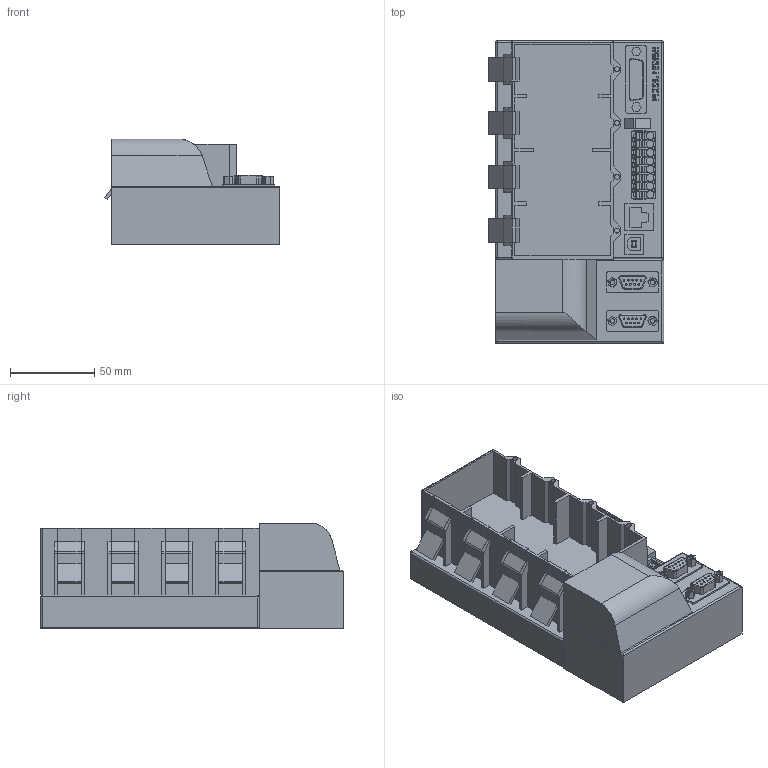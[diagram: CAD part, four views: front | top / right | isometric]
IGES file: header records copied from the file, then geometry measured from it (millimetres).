
Global section: file name: SBC_IGES_PLC_PCD3M5360_2021-04-11.iges; native system: CAD Exchanger; preprocessor: CAD Exchanger 3.9.1 (cadexchanger.com); date: 20210411.152255; units: millimetre
Bounding box: 104.25 x 180 x 63 mm (x, y, z)
Volume: 628294.3 mm3; surface area: 117574.9 mm2
Topology: 37 solids, 37 shells, 1123 faces, 2894 edges, 1899 vertices
Faces by surface type: plane 761, extrusion 198, cylinder 142, torus 16, sphere 4, bspline 2
Full cylindrical faces by diameter (mm): 1 x18, 2.7 x4, 3 x4, 4.5 x8
